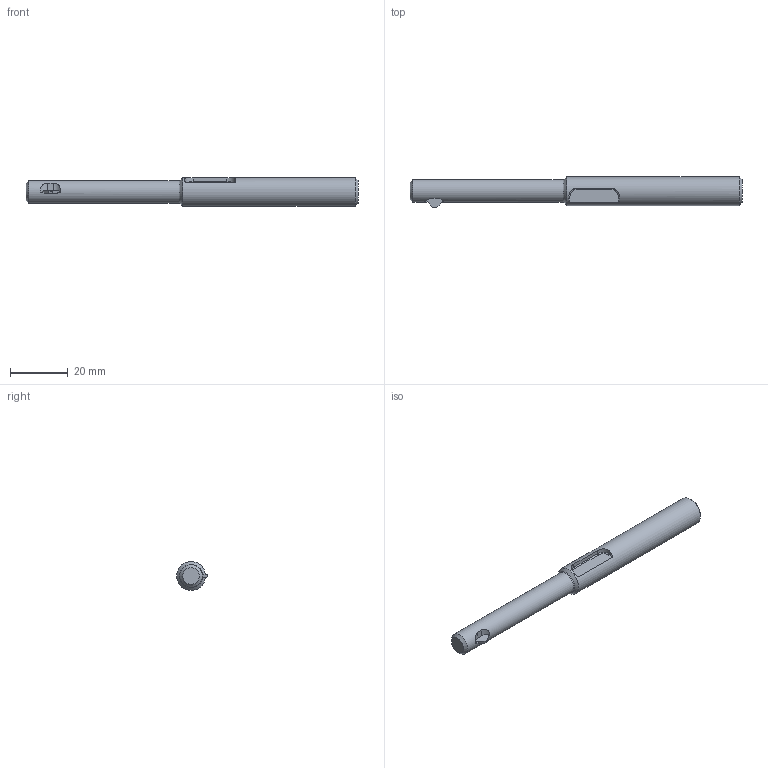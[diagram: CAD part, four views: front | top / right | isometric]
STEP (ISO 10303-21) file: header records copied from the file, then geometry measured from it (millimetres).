
FILE_DESCRIPTION(/* description */ (''),/* implementation_level */ '2;1');
FILE_NAME(/* name */ 'X:\EDF\EDF-OPEN\EDF-865\מודל מעודכן\U burr\קבצי STEP\Ass-Uburr Ø8mm_Simplify_1.stp',/* time_stamp */ '2023-03-05T10:45:34+02:00',/* author */ ('adva'),/* organization */ (''),/* preprocessor_version */ 'ST-DEVELOPER v18.1',/* originating_system */ 'Autodesk Inventor 2022',/* authorisation */ '');
FILE_SCHEMA (('CONFIG_CONTROL_DESIGN'));
Length unit declared in the file: millimetre
Products named in the file (1): Ass-Uburr Ø8mm_Simplify_1
Bounding box: 115 x 10.64 x 10 mm (x, y, z)
Volume: 7238 mm3; surface area: 3388.5 mm2
Topology: 1 solids, 1 shells, 32 faces, 79 edges, 51 vertices
Faces by surface type: plane 16, cylinder 10, torus 3, cone 3
Full cylindrical faces by diameter (mm): 7.8 x1, 10 x1
Entity records: 1083 total; most frequent: CARTESIAN_POINT 227, DIRECTION 167, ORIENTED_EDGE 158, EDGE_CURVE 79, AXIS2_PLACEMENT_3D 63, VERTEX_POINT 51, LINE 41, VECTOR 41
